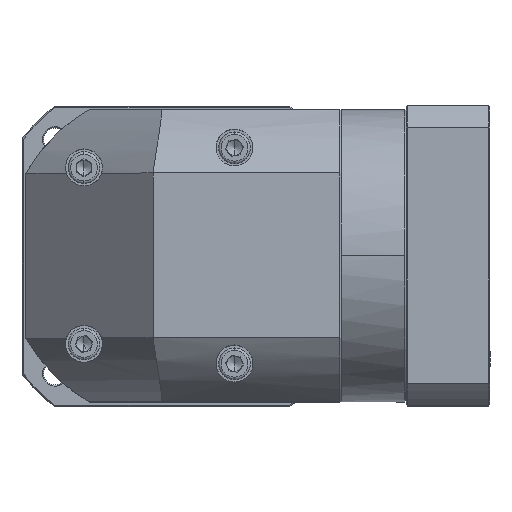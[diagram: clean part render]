
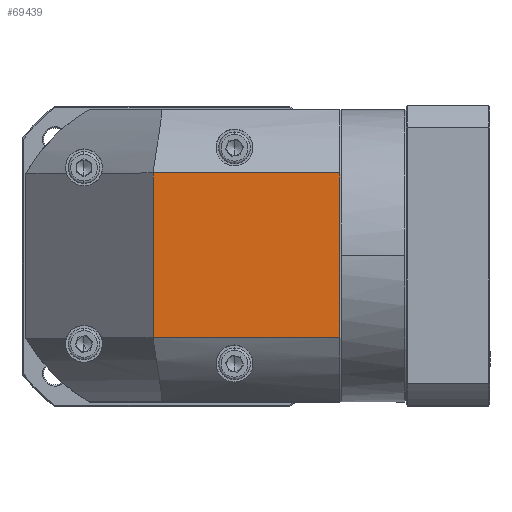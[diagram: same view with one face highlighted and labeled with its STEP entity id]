
A CAD part, top view. The second image highlights one B-rep face of the part: STEP entity #69439.
In plain terms, the highlighted planar face has unit normal (0, 0, 1).
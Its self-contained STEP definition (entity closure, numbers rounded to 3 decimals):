
#1004 = DIRECTION ( 'NONE',  ( 1., 0., 0. ) ) ;
#1966 = AXIS2_PLACEMENT_3D ( 'NONE', #133576, #123589, #61755 ) ;
#3408 = CARTESIAN_POINT ( 'NONE',  ( -114.499, 82.589, 252.64 ) ) ;
#14548 = CARTESIAN_POINT ( 'NONE',  ( -41.099, 82.589, 252.64 ) ) ;
#17100 = CARTESIAN_POINT ( 'NONE',  ( -164.499, -7.311, 252.64 ) ) ;
#19609 = FACE_OUTER_BOUND ( 'NONE', #109566, .T. ) ;
#23286 = VERTEX_POINT ( 'NONE', #117909 ) ;
#25006 = DIRECTION ( 'NONE',  ( 0., -1., 0. ) ) ;
#25737 = DIRECTION ( 'NONE',  ( -1., 0., 0. ) ) ;
#26546 = ORIENTED_EDGE ( 'NONE', *, *, #86190, .F. ) ;
#30113 = ORIENTED_EDGE ( 'NONE', *, *, #88203, .F. ) ;
#32300 = VECTOR ( 'NONE', #1004, 1000. ) ;
#38568 = EDGE_CURVE ( 'NONE', #110755, #48536, #49933, .T. ) ;
#45054 = LINE ( 'NONE', #3408, #79243 ) ;
#48536 = VERTEX_POINT ( 'NONE', #122978 ) ;
#49933 = LINE ( 'NONE', #14548, #105210 ) ;
#61755 = DIRECTION ( 'NONE',  ( 0., -1., 0. ) ) ;
#64059 = VECTOR ( 'NONE', #25737, 1000. ) ;
#68770 = CARTESIAN_POINT ( 'NONE',  ( -41.099, 57.489, 252.64 ) ) ;
#69439 = ADVANCED_FACE ( 'NONE', ( #19609 ), #134463, .F. ) ;
#72801 = CARTESIAN_POINT ( 'NONE',  ( -164.499, 57.489, 252.64 ) ) ;
#74795 = CARTESIAN_POINT ( 'NONE',  ( -114.499, -7.311, 252.64 ) ) ;
#79243 = VECTOR ( 'NONE', #117866, 1000. ) ;
#83331 = ORIENTED_EDGE ( 'NONE', *, *, #38568, .F. ) ;
#86190 = EDGE_CURVE ( 'NONE', #48536, #113402, #106280, .T. ) ;
#88203 = EDGE_CURVE ( 'NONE', #23286, #110755, #89097, .T. ) ;
#89097 = LINE ( 'NONE', #72801, #32300 ) ;
#100442 = EDGE_CURVE ( 'NONE', #113402, #23286, #45054, .T. ) ;
#105210 = VECTOR ( 'NONE', #25006, 1000. ) ;
#106280 = LINE ( 'NONE', #17100, #64059 ) ;
#109566 = EDGE_LOOP ( 'NONE', ( #30113, #129848, #26546, #83331 ) ) ;
#110755 = VERTEX_POINT ( 'NONE', #68770 ) ;
#113402 = VERTEX_POINT ( 'NONE', #74795 ) ;
#117866 = DIRECTION ( 'NONE',  ( 0., 1., 0. ) ) ;
#117909 = CARTESIAN_POINT ( 'NONE',  ( -114.499, 57.489, 252.64 ) ) ;
#122978 = CARTESIAN_POINT ( 'NONE',  ( -41.099, -7.311, 252.64 ) ) ;
#123589 = DIRECTION ( 'NONE',  ( 0., 0., -1. ) ) ;
#129848 = ORIENTED_EDGE ( 'NONE', *, *, #100442, .F. ) ;
#133576 = CARTESIAN_POINT ( 'NONE',  ( -106.999, 25.089, 252.64 ) ) ;
#134463 = PLANE ( 'NONE',  #1966 ) ;
